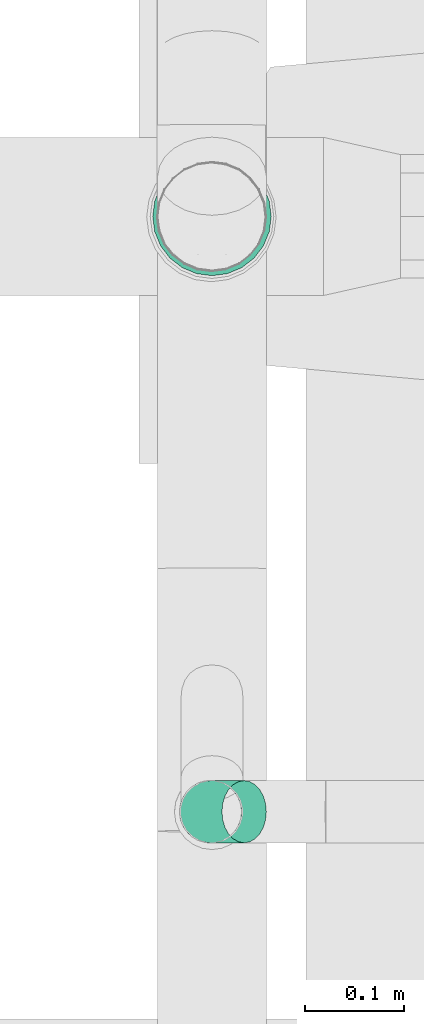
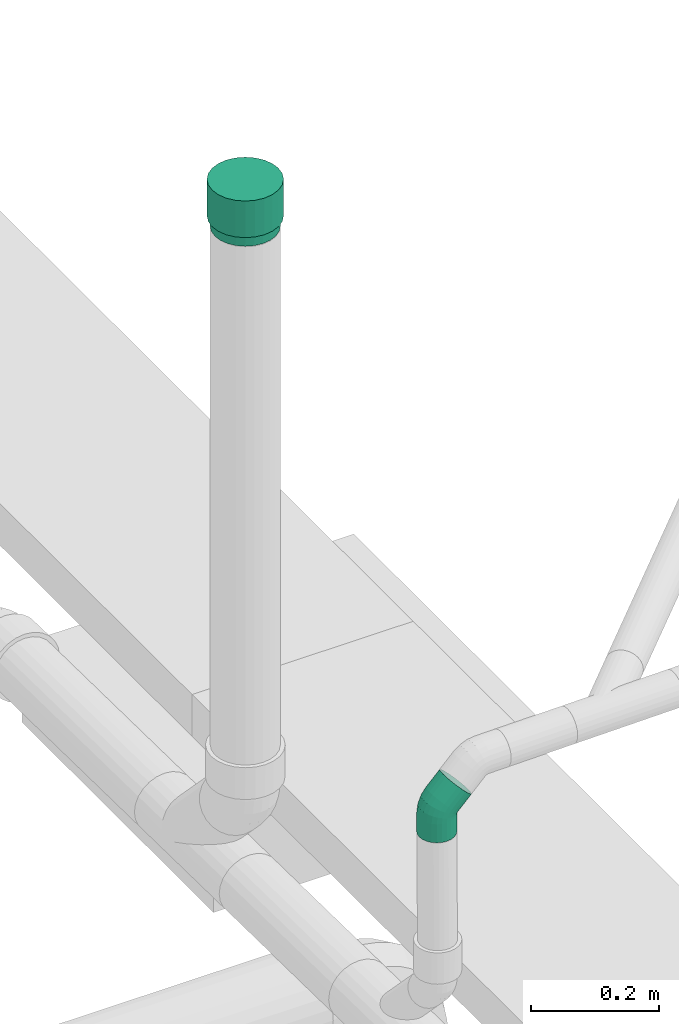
# One storey, part 130 of 374: 2 flow fittings.
"""IFC2X3 building model written with IfcOpenShell, lengths in metres."""

from ifc_helpers import new_model, si_unit, direction, origin, place, context, subcontext, project, spatial, open_shell, surface_model, source, transform, mapped, element, save


model = new_model("IFC2X3")

# Units and contexts
model_context = context("Model", 3, precision=1e-05, world=origin(), true_north=direction((-0.4480736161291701, 0.8939966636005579)))
body_context = subcontext(model_context, "Body", "Model", "MODEL_VIEW")
ifc_project = project(units=[si_unit("LENGTHUNIT", "METRE"), si_unit("AREAUNIT", "SQUARE_METRE"), si_unit("VOLUMEUNIT", "CUBIC_METRE"), si_unit("PLANEANGLEUNIT", "RADIAN"), si_unit("THERMODYNAMICTEMPERATUREUNIT", "KELVIN"), si_unit("MASSUNIT", "GRAM", prefix="KILO"), si_unit("TIMEUNIT", "SECOND")], contexts=[model_context])

# Site, building, storey
site_placement = place(None, origin())
site = spatial("IfcSite", under=ifc_project, at=site_placement, Name="Site 1", CompositionType="ELEMENT")
building_placement = place(site_placement, origin())
building = spatial("IfcBuilding", under=site, at=building_placement, Name="Undefined", CompositionType="ELEMENT")
storey_placement = place(building_placement, origin())
storey = spatial("IfcBuildingStorey", under=building, at=storey_placement, Name="Rez de chauss\x8ee", CompositionType="ELEMENT", Elevation=0.0)

# Flow fittings
shared_shape_1 = source(origin(), body_context, "Body", "SurfaceModel", [
    surface_model("IfcFaceBasedSurfaceModel", [(0.0, 0.008223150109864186, -7.105427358e-15), (0.0, 0.0, 0.0), (0.03539999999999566, 1.776356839e-15, 0.0), (0.03539999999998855, 0.008223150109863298, 0.0), (0.0, -0.007942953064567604, -0.002128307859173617), (0.03539999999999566, -0.007942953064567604, -0.00212830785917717), (-7.105427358e-15, -0.015064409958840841, -0.006239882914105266), (0.035399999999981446, -0.015064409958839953, -0.006239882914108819), (0.0, -0.020879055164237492, -0.012054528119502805), (0.03539999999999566, -0.02087905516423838, -0.012054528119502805), (0.0, -0.024990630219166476, -0.01917598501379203), (0.03539999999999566, -0.024990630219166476, -0.01917598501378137), (-7.105427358e-15, -0.027118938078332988, -0.027118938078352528), (0.03539999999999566, -0.027118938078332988, -0.02711893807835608), (-1.4210854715e-14, -0.02711893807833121, -0.035342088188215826), (0.03539999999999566, -0.02711893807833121, -0.035342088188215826), (-7.105427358e-15, -0.024990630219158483, -0.04328504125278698), (0.03539999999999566, -0.024990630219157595, -0.043285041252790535), (-7.105427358e-15, -0.02087905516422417, -0.050406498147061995), (0.03539999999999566, -0.02087905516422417, -0.05040649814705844), (-7.105427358e-15, -0.015064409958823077, -0.05622114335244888), (0.03539999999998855, -0.015064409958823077, -0.05622114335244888), (-1.4210854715e-14, -0.007942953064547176, -0.06033271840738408), (0.03539999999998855, -0.007942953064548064, -0.06033271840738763), (0.0, 2.2204460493e-14, -0.06246102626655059), (0.03539999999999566, 2.3092638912e-14, -0.06246102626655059), (0.0, 0.00822315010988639, -0.06246102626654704), (0.03539999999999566, 0.00822315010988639, -0.06246102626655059), (-7.105427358e-15, 0.016166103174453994, -0.06033271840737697), (0.03539999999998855, 0.016166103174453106, -0.06033271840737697), (-7.105427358e-15, 0.02328756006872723, -0.056221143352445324), (0.03539999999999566, 0.023287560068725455, -0.05622114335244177), (0.0, 0.029102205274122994, -0.05040649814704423), (0.03539999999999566, 0.02910220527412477, -0.05040649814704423), (-7.105427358e-15, 0.03321378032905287, -0.043285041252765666), (0.03539999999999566, 0.03321378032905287, -0.043285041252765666), (-7.105427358e-15, 0.03534208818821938, -0.03534208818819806), (0.03540000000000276, 0.03534208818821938, -0.035342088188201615), (-7.105427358e-15, 0.0353420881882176, -0.027118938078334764), (0.03539999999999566, 0.035342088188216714, -0.027118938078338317), (-7.105427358e-15, 0.03321378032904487, -0.019175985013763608), (0.03539999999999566, 0.033213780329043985, -0.019175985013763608), (-7.105427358e-15, 0.02910220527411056, -0.012054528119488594), (0.03540000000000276, 0.02910220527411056, -0.012054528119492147), (-7.105427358e-15, 0.023287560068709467, -0.00623988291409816), (0.03539999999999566, 0.023287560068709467, -0.00623988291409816), (-7.105427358e-15, 0.016166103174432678, -0.0021283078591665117), (0.03539999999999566, 0.016166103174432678, -0.0021283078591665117), (0.051406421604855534, -0.02504985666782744, -0.035614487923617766), (0.05168162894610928, -0.025014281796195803, -0.027396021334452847), (0.06634264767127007, -0.01898095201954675, -0.03641347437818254), (0.06687466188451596, -0.01884103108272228, -0.028208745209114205), (0.07921003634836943, -0.009317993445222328, -0.037685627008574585), (0.0799632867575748, -0.009011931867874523, -0.02950277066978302), (0.05059955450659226, -0.023025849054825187, -0.04354370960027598), (0.06478286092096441, -0.01726287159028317, -0.044302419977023), (0.07700161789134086, -0.008087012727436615, -0.04551044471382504), (0.04931601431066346, -0.019080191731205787, -0.05064332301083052), (0.06230159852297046, -0.013803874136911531, -0.05133796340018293), (0.07348853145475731, -0.0054028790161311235, -0.05244397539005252), (0.04764327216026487, -0.013481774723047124, -0.0564295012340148), (0.05906795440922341, -0.008839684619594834, -0.057040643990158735), (0.06891018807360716, -0.00144851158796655, -0.05801371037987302), (0.04569532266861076, -0.006612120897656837, -0.060507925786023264), (0.05530229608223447, -0.0027086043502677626, -0.061021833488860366), (0.06357859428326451, 0.003506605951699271, -0.061840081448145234), (0.043604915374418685, 0.0010606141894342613, -0.06260065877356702), (0.051261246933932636, 0.004171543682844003, -0.06301022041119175), (0.05785708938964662, 0.00912479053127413, -0.06366232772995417), (0.04151450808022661, 0.009013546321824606, -0.06256508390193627), (0.04722019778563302, 0.011331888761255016, -0.06287029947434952), (0.05213558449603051, 0.015023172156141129, -0.06335626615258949), (0.0395665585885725, 0.016704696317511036, -0.0604036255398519), (0.043454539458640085, 0.01828446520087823, -0.060611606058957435), (0.046803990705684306, 0.020799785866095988, -0.0609427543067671), (0.03789381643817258, 0.023609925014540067, -0.05626358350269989), (0.04022089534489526, 0.024555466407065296, -0.05638806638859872), (0.04222564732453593, 0.026060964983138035, -0.05658626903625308), (0.036610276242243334, 0.02925865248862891, -0.0504270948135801), (0.03773963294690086, 0.029717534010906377, -0.05048750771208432), (0.038712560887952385, 0.03044816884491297, -0.05058369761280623), (0.0358034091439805, 0.03326592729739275, -0.04329190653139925), (0.036179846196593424, 0.033418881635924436, -0.04331204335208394), (0.03650414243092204, 0.03366241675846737, -0.043344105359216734), (0.03552820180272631, 0.03535866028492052, -0.03534426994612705), (0.03564783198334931, 0.035407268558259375, -0.03535066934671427), (0.035750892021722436, 0.03548466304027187, -0.03536085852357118), (0.0358034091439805, 0.03539423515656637, -0.02712580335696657), (0.036179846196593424, 0.03554718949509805, -0.027145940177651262), (0.03650414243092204, 0.03579072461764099, -0.027178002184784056), (0.036610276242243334, 0.03337022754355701, -0.019196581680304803), (0.03773963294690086, 0.03382910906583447, -0.019256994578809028), (0.038712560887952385, 0.03455974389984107, -0.019353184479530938), (0.03789381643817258, 0.029424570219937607, -0.012096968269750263), (0.04022089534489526, 0.030370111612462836, -0.012221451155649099), (0.04222564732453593, 0.031875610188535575, -0.012419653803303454), (0.0395665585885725, 0.02382615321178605, -0.006310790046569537), (0.043454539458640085, 0.025405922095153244, -0.006518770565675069), (0.046803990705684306, 0.027921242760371, -0.006849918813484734), (0.04151450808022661, 0.016956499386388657, -0.0022323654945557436), (0.04722019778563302, 0.019274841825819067, -0.002537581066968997), (0.05213558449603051, 0.02296612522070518, -0.0030235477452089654), (0.04360491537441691, 0.009283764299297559, -0.00013963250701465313), (0.05126124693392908, 0.012394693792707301, -0.0005491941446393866), (0.05785708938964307, 0.017347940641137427, -0.0012013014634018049), (0.04569532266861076, 0.0013308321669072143, -0.00017520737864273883), (0.05530229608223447, 0.0052343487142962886, -0.0006891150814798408), (0.06357859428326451, 0.011449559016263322, -0.0015073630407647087), (0.04764327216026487, -0.006360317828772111, -0.0023366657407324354), (0.05906795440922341, -0.0017182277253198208, -0.0029478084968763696), (0.06891018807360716, 0.005672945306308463, -0.003920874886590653), (0.04931601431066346, -0.013265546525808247, -0.006476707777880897), (0.06230159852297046, -0.007989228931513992, -0.007171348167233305), (0.07348853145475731, 0.00041176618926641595, -0.008277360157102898), (0.05059955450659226, -0.01891427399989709, -0.012313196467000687), (0.06478286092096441, -0.013151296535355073, -0.013071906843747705), (0.07700161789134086, -0.003975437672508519, -0.014279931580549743), (0.051406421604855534, -0.022921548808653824, -0.019448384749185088), (0.06634264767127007, -0.01685264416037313, -0.020247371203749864), (0.07921003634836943, -0.007189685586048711, -0.021519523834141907), (0.10442863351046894, 0.015312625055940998, -0.040928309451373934), (0.10518188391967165, 0.015618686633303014, -0.03274545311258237), (0.10222021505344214, 0.016543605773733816, -0.04875312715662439), (0.09870712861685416, 0.019227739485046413, -0.05568665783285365), (0.09412878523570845, 0.023182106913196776, -0.06125639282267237), (0.08879719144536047, 0.028137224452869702, -0.0650827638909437), (0.08307568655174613, 0.033755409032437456, -0.06690501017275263), (0.07735418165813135, 0.039653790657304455, -0.06659894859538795), (0.07202258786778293, 0.04543040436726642, -0.06418543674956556), (0.06744424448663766, 0.05069158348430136, -0.05982895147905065), (0.06393115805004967, 0.0550787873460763, -0.053826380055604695), (0.06172273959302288, 0.0582930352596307, -0.04658678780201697), (0.06096948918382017, 0.06011528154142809, -0.03860354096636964), (0.06172273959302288, 0.060421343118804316, -0.030420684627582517), (0.06393115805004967, 0.05919036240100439, -0.0225958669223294), (0.06744424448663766, 0.0565062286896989, -0.015662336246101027), (0.07202258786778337, 0.05255186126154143, -0.010092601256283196), (0.07735418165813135, 0.047596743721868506, -0.006266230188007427), (0.08307568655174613, 0.04197855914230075, -0.004443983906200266), (0.08879719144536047, 0.036080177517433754, -0.00475004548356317), (0.09412878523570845, 0.03030356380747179, -0.007163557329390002), (0.09870712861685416, 0.025042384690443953, -0.011520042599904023), (0.10222021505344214, 0.020655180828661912, -0.017522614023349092), (0.10442863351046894, 0.017440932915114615, -0.02476220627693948)], [open_shell([[[0, 1, 2, 3]], [[1, 4, 5, 2]], [[4, 6, 7, 5]], [[6, 8, 9, 7]], [[8, 10, 11, 9]], [[10, 12, 13, 11]], [[12, 14, 15, 13]], [[14, 16, 17, 15]], [[16, 18, 19, 17]], [[18, 20, 21, 19]], [[20, 22, 23, 21]], [[22, 24, 25, 23]], [[24, 26, 27, 25]], [[26, 28, 29, 27]], [[28, 30, 31, 29]], [[30, 32, 33, 31]], [[32, 34, 35, 33]], [[34, 36, 37, 35]], [[36, 38, 39, 37]], [[38, 40, 41, 39]], [[40, 42, 43, 41]], [[42, 44, 45, 43]], [[44, 46, 47, 45]], [[46, 0, 3, 47]], [[13, 15, 48, 49]], [[49, 48, 50, 51]], [[51, 50, 52, 53]], [[15, 17, 54, 48]], [[48, 54, 55, 50]], [[50, 55, 56, 52]], [[17, 19, 57, 54]], [[54, 57, 58, 55]], [[55, 58, 59, 56]], [[19, 21, 60, 57]], [[57, 60, 61, 58]], [[58, 61, 62, 59]], [[21, 23, 63, 60]], [[60, 63, 64, 61]], [[61, 64, 65, 62]], [[23, 25, 66, 63]], [[63, 66, 67, 64]], [[64, 67, 68, 65]], [[25, 27, 69, 66]], [[66, 69, 70, 67]], [[67, 70, 71, 68]], [[27, 29, 72, 69]], [[69, 72, 73, 70]], [[70, 73, 74, 71]], [[29, 31, 75, 72]], [[72, 75, 76, 73]], [[73, 76, 77, 74]], [[31, 33, 78, 75]], [[75, 78, 79, 76]], [[76, 79, 80, 77]], [[33, 35, 81, 78]], [[78, 81, 82, 79]], [[79, 82, 83, 80]], [[35, 37, 84, 81]], [[81, 84, 85, 82]], [[82, 85, 86, 83]], [[37, 39, 87, 84]], [[84, 87, 88, 85]], [[85, 88, 89, 86]], [[39, 41, 90, 87]], [[87, 90, 91, 88]], [[88, 91, 92, 89]], [[41, 43, 93, 90]], [[90, 93, 94, 91]], [[91, 94, 95, 92]], [[43, 45, 96, 93]], [[93, 96, 97, 94]], [[94, 97, 98, 95]], [[45, 47, 99, 96]], [[96, 99, 100, 97]], [[97, 100, 101, 98]], [[47, 3, 102, 99]], [[99, 102, 103, 100]], [[100, 103, 104, 101]], [[3, 2, 105, 102]], [[102, 105, 106, 103]], [[103, 106, 107, 104]], [[2, 5, 108, 105]], [[105, 108, 109, 106]], [[106, 109, 110, 107]], [[5, 7, 111, 108]], [[108, 111, 112, 109]], [[109, 112, 113, 110]], [[7, 9, 114, 111]], [[111, 114, 115, 112]], [[112, 115, 116, 113]], [[9, 11, 117, 114]], [[114, 117, 118, 115]], [[115, 118, 119, 116]], [[11, 13, 49, 117]], [[117, 49, 51, 118]], [[118, 51, 53, 119]], [[53, 52, 120, 121]], [[52, 56, 122, 120]], [[56, 59, 123, 122]], [[59, 62, 124, 123]], [[62, 65, 125, 124]], [[65, 68, 126, 125]], [[68, 71, 127, 126]], [[71, 74, 128, 127]], [[74, 77, 129, 128]], [[77, 80, 130, 129]], [[80, 83, 131, 130]], [[83, 86, 132, 131]], [[86, 89, 133, 132]], [[89, 92, 134, 133]], [[92, 95, 135, 134]], [[95, 98, 136, 135]], [[98, 101, 137, 136]], [[101, 104, 138, 137]], [[104, 107, 139, 138]], [[107, 110, 140, 139]], [[110, 113, 141, 140]], [[113, 116, 142, 141]], [[116, 119, 143, 142]], [[119, 53, 121, 143]]])]),
])
flow_fitting_1_placement = place(storey_placement, origin())
element("IfcFlowFitting", 1, at=flow_fitting_1_placement, inside=storey, Name="PE-HD coude 45°", ObjectType="PE-HD coude 45°", context=body_context, shape_type="MappedRepresentation", body=[
    mapped(shared_shape_1, transform((57.06434282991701, 12.240426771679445, 4.518330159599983), x_axis=(0.0, 0.0, 1.0), y_axis=(0.9914448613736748, 0.13052619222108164, 0.0), z_axis=(-0.13052619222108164, 0.9914448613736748, 0.0))),
])
shared_shape_2 = source(origin(), body_context, "Body", "SurfaceModel", [
    surface_model("IfcFaceBasedSurfaceModel", [(0.0, 0.015663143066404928, 0.0), (0.0, 0.0, 0.0), (0.06999999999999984, 0.0, 0.0), (0.06999999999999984, 0.015663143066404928, 0.0), (0.0, -0.015129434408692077, -0.004053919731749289), (0.06999999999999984, -0.015129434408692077, -0.004053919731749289), (0.0, -0.028694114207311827, -0.011885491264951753), (0.06999999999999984, -0.028694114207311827, -0.011885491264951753), (0.0, -0.03976962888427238, -0.022961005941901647), (0.06999999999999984, -0.03976962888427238, -0.022961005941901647), (0.0, -0.04760120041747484, -0.036525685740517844), (0.06999999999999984, -0.04760120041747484, -0.036525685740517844), (0.0, -0.051655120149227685, -0.05165512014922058), (0.06999999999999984, -0.051655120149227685, -0.05165512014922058), (0.0, -0.05165512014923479, -0.0673182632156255), (0.06999999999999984, -0.05165512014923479, -0.0673182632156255), (0.0, -0.04760120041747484, -0.0824476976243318), (0.06999999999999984, -0.04760120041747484, -0.0824476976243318), (0.0, -0.03976962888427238, -0.09601237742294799), (0.06999999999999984, -0.03976962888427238, -0.09601237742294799), (0.0, -0.028694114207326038, -0.10708789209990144), (0.06999999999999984, -0.028694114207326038, -0.10708789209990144), (0.0, -0.015129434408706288, -0.1149194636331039), (0.06999999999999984, -0.015129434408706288, -0.1149194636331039), (0.0, -1.4210854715e-14, -0.11897338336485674), (0.06999999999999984, -1.4210854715e-14, -0.11897338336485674), (0.0, 0.015663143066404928, -0.11897338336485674), (0.06999999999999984, 0.015663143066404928, -0.11897338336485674), (0.0, 0.030792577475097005, -0.11491946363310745), (0.06999999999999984, 0.030792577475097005, -0.11491946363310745), (0.0, 0.044357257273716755, -0.10708789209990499), (0.06999999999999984, 0.044357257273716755, -0.10708789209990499), (0.0, 0.0554327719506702, -0.0960123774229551), (0.06999999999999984, 0.0554327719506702, -0.0960123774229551), (0.0, 0.06326434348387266, -0.0824476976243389), (0.06999999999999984, 0.06326434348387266, -0.0824476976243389), (0.0, 0.0673182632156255, -0.06731826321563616), (0.06999999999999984, 0.0673182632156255, -0.06731826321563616), (0.0, 0.06731826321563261, -0.05165512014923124), (0.06999999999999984, 0.06731826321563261, -0.05165512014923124), (0.0, 0.06326434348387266, -0.0365256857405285), (0.06999999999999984, 0.06326434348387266, -0.0365256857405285), (0.0, 0.055432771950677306, -0.022961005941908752), (0.06999999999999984, 0.055432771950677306, -0.022961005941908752), (0.0, 0.044357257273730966, -0.011885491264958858), (0.06999999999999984, 0.044357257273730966, -0.011885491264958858), (0.0, 0.030792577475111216, -0.004053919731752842), (0.06999999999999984, 0.030792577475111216, -0.004053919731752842), (0.0, 0.007831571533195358, -0.059486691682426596), (0.06999999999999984, 0.007831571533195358, -0.059486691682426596), (0.06999999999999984, 0.015010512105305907, -0.004957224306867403), (0.06999999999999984, 0.0006526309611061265, -0.004957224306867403), (0.08999999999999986, 0.0006526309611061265, -0.004957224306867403), (0.08999999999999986, 0.015010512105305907, -0.004957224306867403), (0.06999999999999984, -0.013216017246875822, -0.008673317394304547), (0.08999999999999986, -0.013216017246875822, -0.008673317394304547), (0.06999999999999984, -0.025650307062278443, -0.01585225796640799), (0.08999999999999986, -0.025650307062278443, -0.01585225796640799), (0.06999999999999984, -0.03580286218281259, -0.02600481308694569), (0.08999999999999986, -0.03580286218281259, -0.02600481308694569), (0.06999999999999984, -0.04298180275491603, -0.038439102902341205), (0.08999999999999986, -0.04298180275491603, -0.038439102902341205), (0.06999999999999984, -0.046697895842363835, -0.0523077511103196), (0.08999999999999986, -0.046697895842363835, -0.0523077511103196), (0.06999999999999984, -0.046697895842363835, -0.06666563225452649), (0.08999999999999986, -0.046697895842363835, -0.06666563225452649), (0.06999999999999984, -0.04298180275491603, -0.08053428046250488), (0.08999999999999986, -0.04298180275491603, -0.08053428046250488), (0.06999999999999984, -0.035802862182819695, -0.09296857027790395), (0.08999999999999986, -0.035802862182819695, -0.09296857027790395), (0.06999999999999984, -0.025650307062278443, -0.10312112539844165), (0.08999999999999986, -0.025650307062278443, -0.10312112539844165), (0.06999999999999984, -0.013216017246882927, -0.11030006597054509), (0.08999999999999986, -0.013216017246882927, -0.11030006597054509), (0.06999999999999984, 0.0006526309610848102, -0.11401615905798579), (0.08999999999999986, 0.0006526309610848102, -0.11401615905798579), (0.06999999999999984, 0.015010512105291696, -0.11401615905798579), (0.08999999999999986, 0.015010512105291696, -0.11401615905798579), (0.06999999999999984, 0.02887916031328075, -0.1103000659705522), (0.08999999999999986, 0.02887916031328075, -0.1103000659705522), (0.06999999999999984, 0.041313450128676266, -0.10312112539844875), (0.08999999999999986, 0.041313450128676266, -0.10312112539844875), (0.06999999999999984, 0.05146600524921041, -0.09296857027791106), (0.08999999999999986, 0.05146600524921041, -0.09296857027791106), (0.06999999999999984, 0.058644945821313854, -0.08053428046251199), (0.08999999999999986, 0.058644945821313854, -0.08053428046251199), (0.06999999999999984, 0.06236103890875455, -0.06666563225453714), (0.08999999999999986, 0.06236103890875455, -0.06666563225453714), (0.06999999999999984, 0.06236103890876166, -0.05230775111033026), (0.08999999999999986, 0.06236103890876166, -0.05230775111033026), (0.06999999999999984, 0.058644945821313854, -0.03843910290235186), (0.08999999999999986, 0.058644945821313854, -0.03843910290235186), (0.06999999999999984, 0.05146600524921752, -0.026004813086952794), (0.08999999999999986, 0.05146600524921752, -0.026004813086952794), (0.06999999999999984, 0.04131345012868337, -0.015852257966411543), (0.08999999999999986, 0.04131345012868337, -0.015852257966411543), (0.06999999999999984, 0.02887916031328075, -0.0086733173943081), (0.08999999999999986, 0.02887916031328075, -0.0086733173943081)], [open_shell([[[0, 1, 2, 3]], [[1, 4, 5, 2]], [[4, 6, 7, 5]], [[6, 8, 9, 7]], [[8, 10, 11, 9]], [[10, 12, 13, 11]], [[12, 14, 15, 13]], [[14, 16, 17, 15]], [[16, 18, 19, 17]], [[18, 20, 21, 19]], [[20, 22, 23, 21]], [[22, 24, 25, 23]], [[24, 26, 27, 25]], [[26, 28, 29, 27]], [[28, 30, 31, 29]], [[30, 32, 33, 31]], [[32, 34, 35, 33]], [[34, 36, 37, 35]], [[36, 38, 39, 37]], [[38, 40, 41, 39]], [[40, 42, 43, 41]], [[42, 44, 45, 43]], [[44, 46, 47, 45]], [[46, 0, 3, 47]], [[48, 1, 0]], [[48, 4, 1]], [[48, 6, 4]], [[48, 8, 6]], [[48, 10, 8]], [[48, 12, 10]], [[48, 14, 12]], [[48, 16, 14]], [[48, 18, 16]], [[48, 20, 18]], [[48, 22, 20]], [[48, 24, 22]], [[48, 26, 24]], [[48, 28, 26]], [[48, 30, 28]], [[48, 32, 30]], [[48, 34, 32]], [[48, 36, 34]], [[48, 38, 36]], [[48, 40, 38]], [[48, 42, 40]], [[48, 44, 42]], [[48, 46, 44]], [[48, 0, 46]], [[49, 47, 3]], [[49, 45, 47]], [[49, 43, 45]], [[49, 41, 43]], [[49, 39, 41]], [[49, 37, 39]], [[49, 35, 37]], [[49, 33, 35]], [[49, 31, 33]], [[49, 29, 31]], [[49, 27, 29]], [[49, 25, 27]], [[49, 23, 25]], [[49, 21, 23]], [[49, 19, 21]], [[49, 17, 19]], [[49, 15, 17]], [[49, 13, 15]], [[49, 11, 13]], [[49, 9, 11]], [[49, 7, 9]], [[49, 5, 7]], [[49, 2, 5]], [[49, 3, 2]], [[50, 51, 52, 53]], [[51, 54, 55, 52]], [[54, 56, 57, 55]], [[56, 58, 59, 57]], [[58, 60, 61, 59]], [[60, 62, 63, 61]], [[62, 64, 65, 63]], [[64, 66, 67, 65]], [[66, 68, 69, 67]], [[68, 70, 71, 69]], [[70, 72, 73, 71]], [[72, 74, 75, 73]], [[74, 76, 77, 75]], [[76, 78, 79, 77]], [[78, 80, 81, 79]], [[80, 82, 83, 81]], [[82, 84, 85, 83]], [[84, 86, 87, 85]], [[86, 88, 89, 87]], [[88, 90, 91, 89]], [[90, 92, 93, 91]], [[92, 94, 95, 93]], [[94, 96, 97, 95]], [[96, 50, 53, 97]]])]),
])
flow_fitting_2_placement = place(storey_placement, origin())
element("IfcFlowFitting", 2, at=flow_fitting_2_placement, inside=storey, Name="PE-HD manchon pour WC au sol", ObjectType="PE-HD manchon pour WC au sol", context=body_context, shape_type="MappedRepresentation", body=[
    mapped(shared_shape_2, transform((57.05847085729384, 12.754551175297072, 5.399603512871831), x_axis=(0.0, 0.0, -1.0), y_axis=(0.9914448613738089, -0.13052619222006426, 0.0), z_axis=(-0.13052619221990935, -0.9914448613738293, 0.0))),
])

save(model, "model.ifc")
